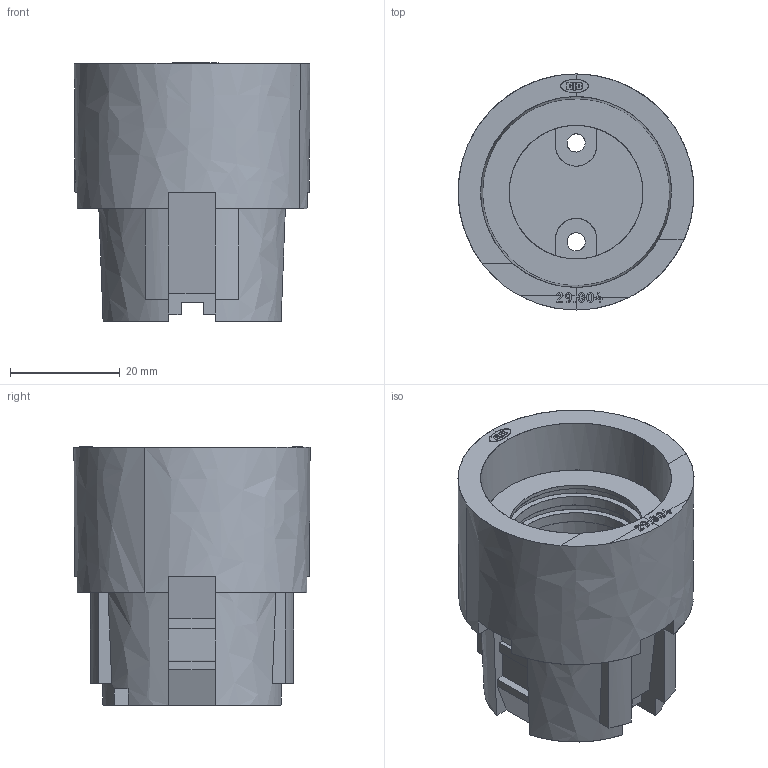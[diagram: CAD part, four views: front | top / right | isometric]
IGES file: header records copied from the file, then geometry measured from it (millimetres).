
Start section: Surface Model. Bezier boundary curves.
Global section: file name: 29_304_3512.igs; native system: TRANS-3D by CORETECH International; preprocessor: 2.1; date: 011113.104735; units: millimetre
Bounding box: 42.97 x 43 x 47.1 mm (x, y, z)
Surface area: 13403.8 mm2 (no closed solid volume)
Topology: 0 solids, 0 shells, 402 faces, 2412 edges, 2412 vertices
Faces by surface type: bspline 402
